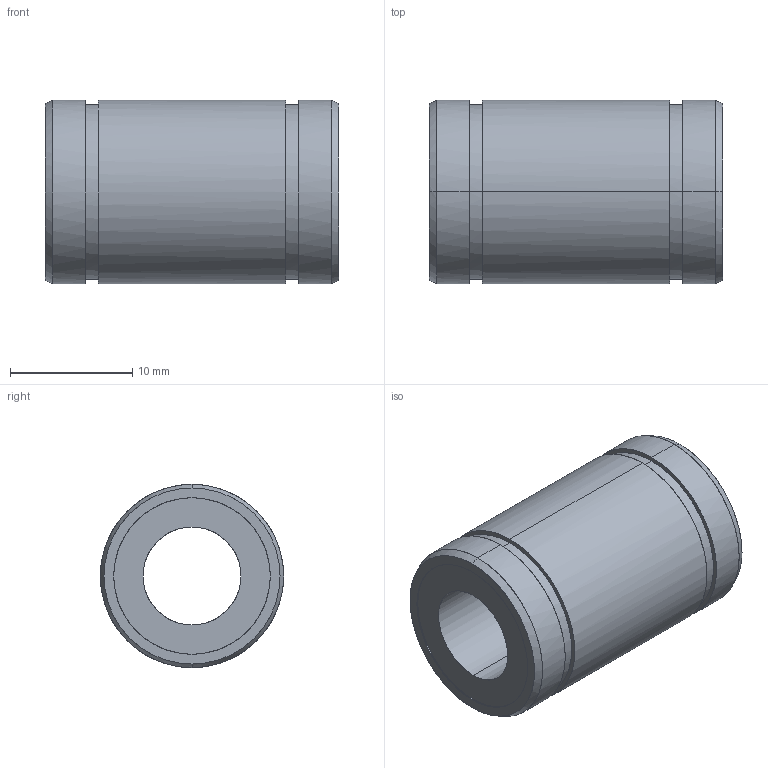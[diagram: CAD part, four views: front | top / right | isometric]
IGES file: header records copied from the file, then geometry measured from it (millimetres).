
Global section: file name: No Iges File Name specified; native system: AutoDesk Inventor R10; preprocessor: AutoDesk Inventor Iges Exporter R10; author: No Author specified; organization: No Organization specified; date: 20101208.094721; units: millimetre
Bounding box: 24 x 15 x 15 mm (x, y, z)
Surface area: 2027.2 mm2 (no closed solid volume)
Topology: 0 solids, 0 shells, 28 faces, 184 edges, 184 vertices
Faces by surface type: bspline 28
